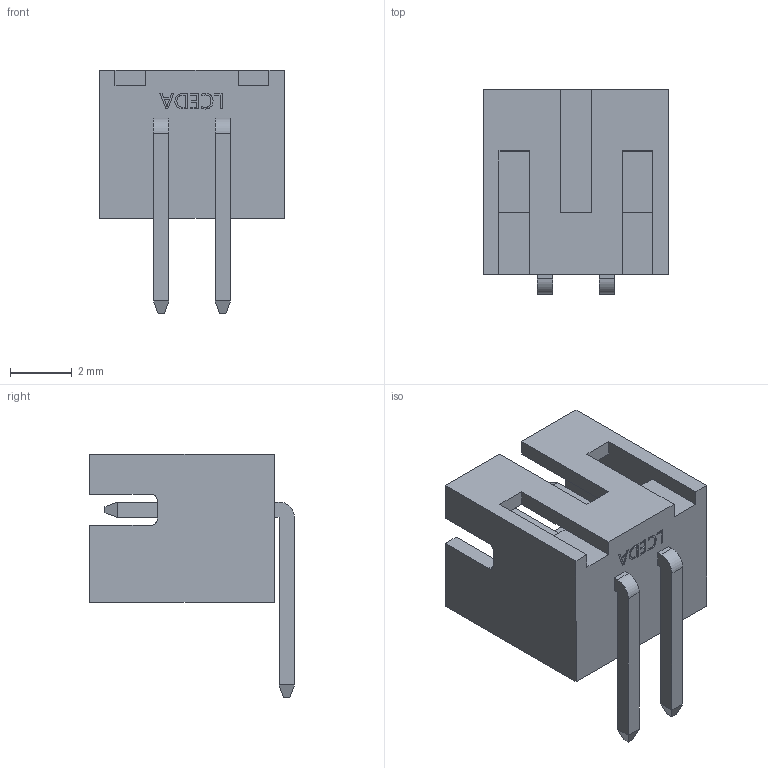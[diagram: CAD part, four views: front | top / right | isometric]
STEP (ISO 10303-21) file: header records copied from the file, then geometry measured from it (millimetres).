
FILE_DESCRIPTION (( 'STEP AP214' ), '1' );
FILE_NAME ('CONN-TH_PH-2AW_C2908634.step', '2022-08-02T18:49:11', ( '' ), ( '' ), 'SwSTEP 2.0', 'SolidWorks 2020', '' );
FILE_SCHEMA (( 'AUTOMOTIVE_DESIGN' ));
Length unit declared in the file: millimetre
Products named in the file (1): CONN-TH_PH-2AW_C2908634
Bounding box: 6 x 6.65 x 7.9 mm (x, y, z)
Volume: 93.4 mm3; surface area: 287.9 mm2
Topology: 14 solids, 14 shells, 364 faces, 969 edges, 640 vertices
Faces by surface type: plane 246, bspline 112, cylinder 6
Entity records: 15933 total; most frequent: CARTESIAN_POINT 4078, ORIENTED_EDGE 1938, DIRECTION 1259, EDGE_CURVE 969, VECTOR 729, LINE 729, VERTEX_POINT 640, EDGE_LOOP 387
